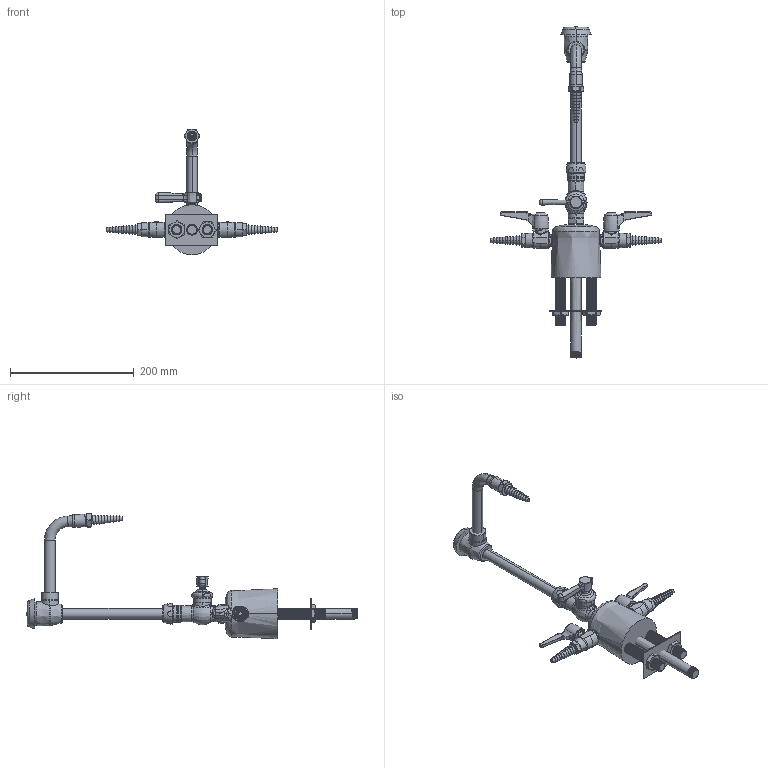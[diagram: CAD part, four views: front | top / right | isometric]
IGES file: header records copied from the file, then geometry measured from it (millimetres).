
Start section:  PTC IGES file: LCF1-AB-C3B1.igs
Global section: file name: LCF1-AB-C3B1.igs; native system: Creo Parametric by PTC Inc.; preprocessor: 2014500; author: usch_engrender; organization: Unknown; date: 20160204.182639; units: inch
Bounding box: 276.86 x 536.51 x 202.83 mm (x, y, z)
Surface area: 145993.1 mm2 (no closed solid volume)
Topology: 0 solids, 99 shells, 1058 faces, 2986 edges, 1960 vertices
Faces by surface type: revolution 686, bspline 372
